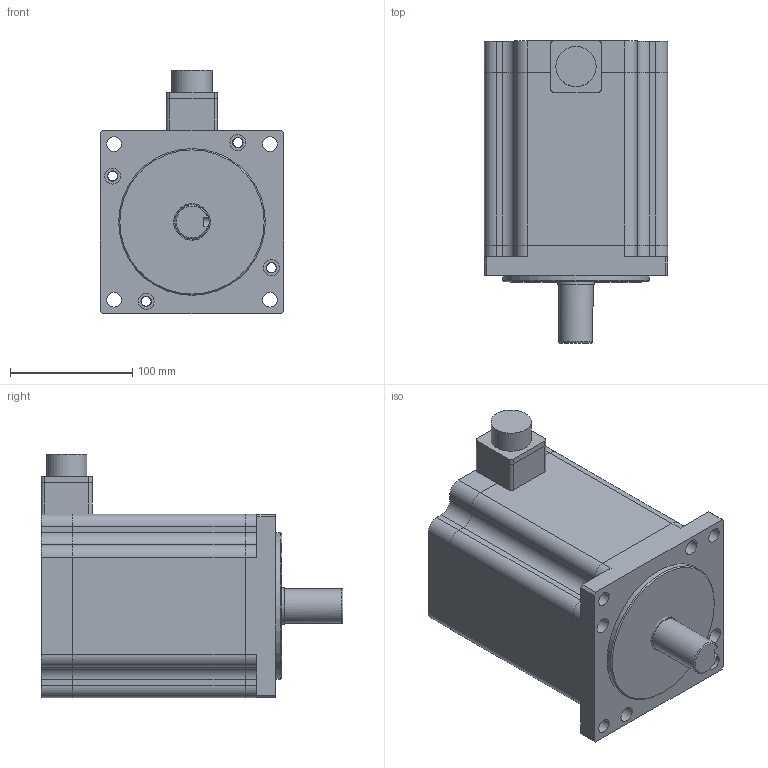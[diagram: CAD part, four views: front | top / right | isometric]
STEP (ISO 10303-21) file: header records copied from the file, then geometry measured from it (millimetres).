
FILE_DESCRIPTION(/* description */ (''),/* implementation_level */ '2;1');
FILE_NAME(/* name */ '150BYG350A.stp',/* time_stamp */ '2024-08-16T16:07:34+08:00',/* author */ (''),/* organization */ (''),/* preprocessor_version */ 'ST-DEVELOPER v18.1',/* originating_system */ 'SIEMENS PLM Software NX 2000',/* authorisation */ '');
FILE_SCHEMA (('AUTOMOTIVE_DESIGN { 1 0 10303 214 3 1 1 1 }'));
Length unit declared in the file: millimetre
Products named in the file (1): 925032A4A3696va8
Bounding box: 150 x 247 x 199 mm (x, y, z)
Volume: 3992460.1 mm3; surface area: 275980.4 mm2
Topology: 6 solids, 6 shells, 149 faces, 392 edges, 265 vertices
Faces by surface type: plane 76, cylinder 71, cone 1, torus 1
Full cylindrical faces by diameter (mm): 8 x4, 8.5 x8, 12 x4, 13 x4, 28 x1, 29.8 x1, 30 x1, 33 x1, 120 x1, 138.5 x1
Entity records: 4617 total; most frequent: CARTESIAN_POINT 820, DIRECTION 796, ORIENTED_EDGE 710, EDGE_CURVE 355, AXIS2_PLACEMENT_3D 293, VERTEX_POINT 254, EDGE_LOOP 217, LINE 210
